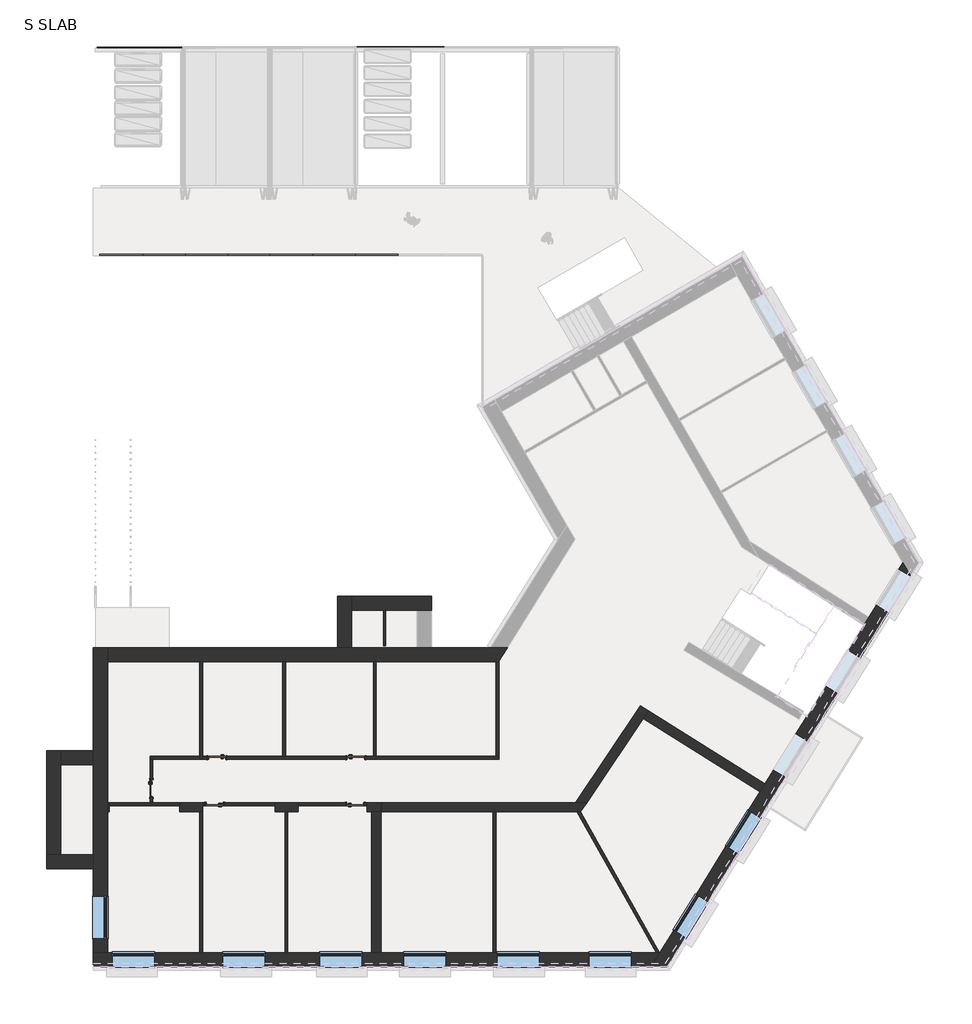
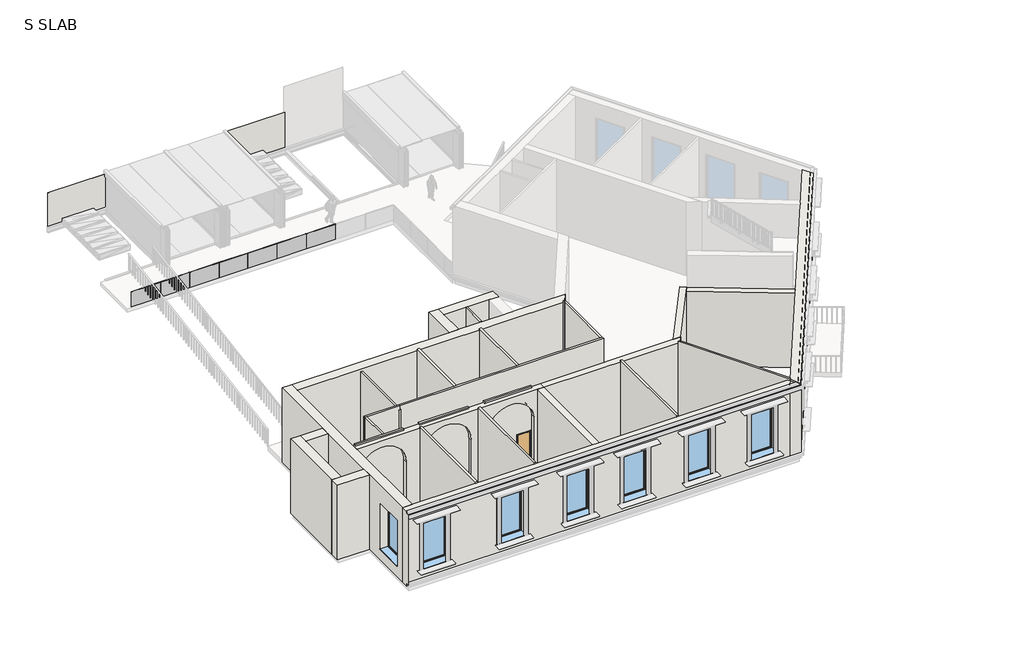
# One storey, part 1 of 4: 31 walls, 9 windows, 7 plates, 5 doors.
"""IFC4 building model written with IfcOpenShell, lengths in millimetres."""

from ifc_helpers import new_model, si_unit, frame, origin, place, context, project, spatial, polyline, circle_curve, outline, extrude, faceted_brep, transform, mapped, element, save
from ifc_brep_helpers import plane_surface, revolved_surface, advanced_brep
from components import doors_intsgl_810x2110mm_5ef26f82, doors_intsgl_810x2110mm_60c2a13c, system_panel_glazed_a0877fd3, system_panel_glazed_3ddc4d3d, system_panel_glazed_6f7ca1da, windows_sgl_plain_1810x1210mm_9f3af405, windows_sgl_plain_1810x1210mm_a5bf54d6

model = new_model("IFC4")

# Units and contexts
model_context = context("Model", 3, world=origin())
ifc_project = project(units=[si_unit("LENGTHUNIT", "METRE", prefix="MILLI")], contexts=[model_context])

# Site, building, storey
site = spatial("IfcSite", under=ifc_project)
building = spatial("IfcBuilding", under=site)
storey = spatial("IfcBuildingStorey", under=building, Name="S SLAB", Elevation=6300.0)

# Doors
placement = place(None, origin())
doors_intsgl_810x2110mm_shape = doors_intsgl_810x2110mm_5ef26f82(model_context)
element("IfcDoor", 1, ObjectType="Doors_IntSgl : 810x2110mm", at=placement, inside=storey, context=model_context, shape_type="MappedRepresentation", body=[
    mapped(doors_intsgl_810x2110mm_shape, transform((-10959.1874983, 3595.0288254, 6300.0), x_axis=(0.0, -1.0, 0.0), y_axis=(1.0, 0.0, 0.0), z_axis=(0.0, 0.0, 1.0))),
])
element("IfcDoor", 2, ObjectType="Doors_IntSgl : 810x2110mm", at=placement, inside=storey, context=model_context, shape_type="MappedRepresentation", body=[
    mapped(doors_intsgl_810x2110mm_shape, transform((-2274.1874983, 2927.5288254, 6300.0), x_axis=(1.0, 0.0, 0.0), y_axis=(0.0, 1.0, 0.0), z_axis=(0.0, 0.0, 1.0))),
])
element("IfcDoor", 3, ObjectType="Doors_IntSgl : 810x2110mm", at=placement, inside=storey, context=model_context, shape_type="MappedRepresentation", body=[
    mapped(doors_intsgl_810x2110mm_shape, transform((-8166.6874983, 4905.5548037, 6300.0), x_axis=(-1.0, 0.0, 0.0), y_axis=(0.0, -1.0, 0.0), z_axis=(0.0, 0.0, 1.0))),
])
doors_intsgl_810x2110mm_2_shape = doors_intsgl_810x2110mm_60c2a13c(model_context)
element("IfcDoor", 4, ObjectType="Doors_IntSgl : 810x2110mm", at=placement, inside=storey, context=model_context, shape_type="MappedRepresentation", body=[
    mapped(doors_intsgl_810x2110mm_2_shape, transform((-2249.780878, 4905.5548037, 6300.0), x_axis=(1.0, 0.0, 0.0), y_axis=(0.0, 1.0, 0.0), z_axis=(0.0, 0.0, 1.0))),
])
element("IfcDoor", 5, ObjectType="Doors_IntSgl : 810x2110mm", at=placement, inside=storey, context=model_context, shape_type="MappedRepresentation", body=[
    mapped(doors_intsgl_810x2110mm_2_shape, transform((-8266.6874983, 2927.5288254, 6300.0), x_axis=(-1.0, 0.0, 0.0), y_axis=(0.0, -1.0, 0.0), z_axis=(0.0, 0.0, 1.0))),
])

# Plates
system_panel_glazed_shape = system_panel_glazed_a0877fd3(model_context)
element("IfcPlate", 6, ObjectType="System Panel : Glazed", at=placement, inside=storey, context=model_context, shape_type="MappedRepresentation", body=[
    mapped(system_panel_glazed_shape, transform((-12256.6874982, 26292.1681881, 6300.0), x_axis=(1.0, 0.0, 0.0), y_axis=(0.0, 1.0, 0.0), z_axis=(0.0, 0.0, 1.0))),
])
element("IfcPlate", 7, ObjectType="System Panel : Glazed", at=placement, inside=storey, context=model_context, shape_type="MappedRepresentation", body=[
    mapped(system_panel_glazed_shape, transform((-8616.6874982, 26292.1681881, 6300.0), x_axis=(1.0, 0.0, 0.0), y_axis=(0.0, 1.0, 0.0), z_axis=(0.0, 0.0, 1.0))),
])
element("IfcPlate", 8, ObjectType="System Panel : Glazed", at=placement, inside=storey, context=model_context, shape_type="MappedRepresentation", body=[
    mapped(system_panel_glazed_shape, transform((-5016.6874982, 26292.1681881, 6300.0), x_axis=(1.0, 0.0, 0.0), y_axis=(0.0, 1.0, 0.0), z_axis=(0.0, 0.0, 1.0))),
])
element("IfcPlate", 9, ObjectType="System Panel : Glazed", at=placement, inside=storey, context=model_context, shape_type="MappedRepresentation", body=[
    mapped(system_panel_glazed_shape, transform((-3186.6874982, 26292.1681881, 6300.0), x_axis=(1.0, 0.0, 0.0), y_axis=(0.0, 1.0, 0.0), z_axis=(0.0, 0.0, 1.0))),
])
element("IfcPlate", 10, ObjectType="System Panel : Glazed", at=placement, inside=storey, context=model_context, shape_type="MappedRepresentation", body=[
    mapped(system_panel_glazed_shape, transform((-1356.6874982, 26292.1681881, 6300.0), x_axis=(1.0, 0.0, 0.0), y_axis=(0.0, 1.0, 0.0), z_axis=(0.0, 0.0, 1.0))),
])
system_panel_glazed_2_shape = system_panel_glazed_3ddc4d3d(model_context)
element("IfcPlate", 11, ObjectType="System Panel : Glazed", at=placement, inside=storey, context=model_context, shape_type="MappedRepresentation", body=[
    mapped(system_panel_glazed_2_shape, transform((-6816.6874982, 26292.1681881, 6300.0), x_axis=(1.0, 0.0, 0.0), y_axis=(0.0, 1.0, 0.0), z_axis=(0.0, 0.0, 1.0))),
])
system_panel_glazed_3_shape = system_panel_glazed_6f7ca1da(model_context)
element("IfcPlate", 12, ObjectType="System Panel : Glazed", at=placement, inside=storey, context=model_context, shape_type="MappedRepresentation", body=[
    mapped(system_panel_glazed_3_shape, transform((-10436.6874982, 26292.1681881, 6300.0), x_axis=(1.0, 0.0, 0.0), y_axis=(0.0, 1.0, 0.0), z_axis=(0.0, 0.0, 1.0))),
])

# Walls
element("IfcWall", 13, ObjectType="Wall-Partn_12P-70MStd-12P", at=placement, inside=storey, context=model_context, shape_type="SweptSolid", body=[
    extrude(outline(polyline([(-972.280878, 11190.0288254), (-972.280878, 9665.0288254), (-1067.280878, 9665.0288254), (-1067.280878, 11190.0288254), (-972.280878, 11190.0288254)])), frame((0.0, 0.0, 6300.0), z_axis=(0.0, 0.0, 1.0), x_axis=(1.0, 0.0, 0.0)), (0.0, 0.0, 1.0), 4900.0),
])
element("IfcWall", 14, ObjectType="Wall-Partn_12P-70MStd-12P 2", at=placement, inside=storey, context=model_context, shape_type="SweptSolid", body=[
    extrude(outline(polyline([(-2196.5962965, 35197.5288254), (1503.4037035, 35197.5288254), (1503.4037035, 35182.5288254), (-2196.5962965, 35182.5288254), (-2196.5962965, 35197.5288254)])), frame((0.0, 0.0, 6300.0), z_axis=(0.0, 0.0, 1.0), x_axis=(1.0, 0.0, 0.0)), (0.0, 0.0, 1.0), 2301.9721591),
])
element("IfcWall", 15, ObjectType="Wall-Partn_12P-70MStd-12P 2", at=placement, inside=storey, context=model_context, shape_type="SweptSolid", body=[
    extrude(outline(polyline([(-13277.0617256, 35159.4288254), (-9669.7874983, 35159.4288254), (-9669.7874983, 35144.4288254), (-13277.0617256, 35144.4288254), (-13277.0617256, 35159.4288254)])), frame((0.0, 0.0, 6300.0), z_axis=(0.0, 0.0, 1.0), x_axis=(1.0, 0.0, 0.0)), (0.0, 0.0, 1.0), 2195.0359134),
])
element("IfcWall", 16, ObjectType="Wall-Int_12P-100Blk-12P", at=placement, inside=storey, context=model_context, shape_type="Brep", body=[
    faceted_brep([(-8771.6874983, 4843.0548037, 6300.0), (-8771.6874983, 4968.0548037, 6300.0), (-8771.6874983, 8990.0288254, 6300.0), (-8771.6874983, 8990.0288254, 11032.2806787), (-8771.6874983, 4968.0548037, 11032.2806787), (-8771.6874983, 4843.0548037, 11032.2806787), (-8896.6874983, 4843.0548037, 6300.0), (-8896.6874983, 4843.0548037, 11032.2806787), (-8896.6874983, 4968.0548037, 11032.2806787), (-8896.6874983, 8990.0288254, 11032.2806787), (-8896.6874983, 8990.0288254, 6300.0), (-8896.6874983, 4968.0548037, 6300.0), (-8834.1874983, 4843.0548037, 11032.2806787)], [[[0, 1, 2, 3, 4, 5]], [[6, 7, 8, 9, 10, 11]], [[2, 1, 0, 6, 11, 10]], [[5, 4, 3, 9, 8, 7, 12]], [[3, 2, 10, 9]], [[0, 5, 12, 7, 6]]]),
])
element("IfcWall", 17, ObjectType="Wall-Int_12P-100Blk-12P", at=placement, inside=storey, context=model_context, shape_type="SweptSolid", body=[
    extrude(outline(polyline([(-5246.6874983, 8990.0288254), (-5246.6874983, 4968.0548037), (-5371.6874983, 4968.0548037), (-5371.6874983, 8990.0288254), (-5246.6874983, 8990.0288254)])), frame((0.0, 0.0, 6300.0), z_axis=(0.0, 0.0, 1.0), x_axis=(1.0, 0.0, 0.0)), (0.0, 0.0, 1.0), 5000.0),
])
element("IfcWall", 18, ObjectType="Wall-Int_12P-100Blk-12P", at=placement, inside=storey, context=model_context, shape_type="SweptSolid", body=[
    extrude(outline(polyline([(-1501.9484639, 4968.0548037), (-1501.9484639, 8990.0288254), (-1376.9484639, 8990.0288254), (-1376.9484639, 4968.0548037), (-1501.9484639, 4968.0548037)])), frame((0.0, 0.0, 6300.0), z_axis=(0.0, 0.0, 1.0), x_axis=(1.0, 0.0, 0.0)), (0.0, 0.0, 1.0), 5000.0),
])
element("IfcWall", 19, ObjectType="Wall-Int_12P-100Blk-12P", at=placement, inside=storey, context=model_context, shape_type="Brep", body=[
    faceted_brep([(-9751.6874983, 2990.0288254, 6300.0), (-10896.6874983, 2990.0288254, 6300.0), (-11021.6874983, 2990.0288254, 6300.0), (-12755.2222662, 2990.0288254, 6300.0), (-12755.2222662, 2990.0288254, 11300.0), (-11021.6874983, 2990.0288254, 11300.0), (-10896.6874983, 2990.0288254, 11300.0), (-9751.6874983, 2990.0288254, 11300.0), (-9751.6874983, 2865.0288254, 6300.0), (-9751.6874983, 2865.0288254, 11300.0), (-12755.2222662, 2865.0288254, 11300.0), (-12755.2222662, 2865.0288254, 6300.0)], [[[0, 1, 2, 3, 4, 5, 6, 7]], [[8, 9, 10, 11]], [[3, 2, 1, 0, 8, 11]], [[7, 6, 5, 4, 10, 9]], [[0, 7, 9, 8]], [[3, 11, 10, 4]]]),
])
element("IfcWall", 20, ObjectType="Wall-Int_12P-100Blk-12P", at=placement, inside=storey, context=model_context, shape_type="SweptSolid", body=[
    extrude(outline(polyline([(6300.0, -5691.6874983), (11300.0, -5691.6874983), (11300.0, -8771.6874983), (6300.0, -8771.6874983), (6300.0, -8671.6874983), (8410.0, -8671.6874983), (8410.0, -7861.6874983), (6300.0, -7861.6874983), (6300.0, -5691.6874983)])), frame((0.0, 2865.0288254, 0.0), z_axis=(0.0, 1.0, 0.0), x_axis=(0.0, 0.0, 1.0)), (0.0, 0.0, 1.0), 125.0),
])
element("IfcWall", 21, ObjectType="Wall-Int_12P-100Blk-12P", at=placement, inside=storey, context=model_context, shape_type="SweptSolid", body=[
    extrude(outline(polyline([(11300.0, -1769.1874983), (11300.0, -4711.6874983), (6300.0, -4711.6874983), (6300.0, -2679.1874983), (8410.0, -2679.1874983), (8410.0, -1869.1874983), (6300.0, -1869.1874983), (6300.0, -1769.1874983), (11300.0, -1769.1874983)])), frame((0.0, 2865.0288254, 0.0), z_axis=(0.0, 1.0, 0.0), x_axis=(0.0, 0.0, 1.0)), (0.0, 0.0, 1.0), 125.0),
])
element("IfcWall", 22, ObjectType="Wall-Int_12P-100Blk-12P", at=placement, inside=storey, context=model_context, shape_type="SweptSolid", body=[
    extrude(outline(polyline([(-8896.6874983, -3409.9711746), (-8896.6874983, 2590.0288254), (-8771.6874983, 2590.0288254), (-8771.6874983, -3409.9711746), (-8896.6874983, -3409.9711746)])), frame((0.0, 0.0, 6300.0), z_axis=(0.0, 0.0, 1.0), x_axis=(1.0, 0.0, 0.0)), (0.0, 0.0, 1.0), 5000.0),
])
element("IfcWall", 23, ObjectType="Wall-Int_12P-100Blk-12P", at=placement, inside=storey, context=model_context, shape_type="SweptSolid", body=[
    extrude(outline(polyline([(-5271.6874983, -3409.9711746), (-5271.6874983, 2590.0288254), (-5146.6874983, 2590.0288254), (-5146.6874983, -3409.9711746), (-5271.6874983, -3409.9711746)])), frame((0.0, 0.0, 6300.0), z_axis=(0.0, 0.0, 1.0), x_axis=(1.0, 0.0, 0.0)), (0.0, 0.0, 1.0), 5000.0),
])
element("IfcWall", 24, ObjectType="Wall-Int_12P-100Blk-12P", at=placement, inside=storey, context=model_context, shape_type="SweptSolid", body=[
    extrude(outline(polyline([(3720.5515361, 2590.0288254), (3720.5515361, -3409.9711746), (3595.5515361, -3409.9711746), (3595.5515361, 2590.0288254), (3720.5515361, 2590.0288254)])), frame((0.0, 0.0, 6300.0), z_axis=(0.0, 0.0, 1.0), x_axis=(1.0, 0.0, 0.0)), (0.0, 0.0, 1.0), 5000.0),
])
element("IfcWall", 25, ObjectType="Wall-Int_12P-100Blk-12P", at=placement, inside=storey, context=model_context, shape_type="Brep", body=[
    faceted_brep([(3845.5515361, 4843.0548037, 11300.0), (-8834.1874983, 4843.0548037, 11300.0), (-8834.1874983, 4843.0548037, 11032.2806787), (-8771.6874983, 4843.0548037, 11032.2806787), (-8771.6874983, 4843.0548037, 6300.0), (-8571.6874983, 4843.0548037, 6300.0), (-8571.6874983, 4843.0548037, 8410.0), (-7761.6874983, 4843.0548037, 8410.0), (-7761.6874983, 4843.0548037, 6300.0), (-2654.780878, 4843.0548037, 6300.0), (-2654.780878, 4843.0548037, 8410.0), (-1844.780878, 4843.0548037, 8410.0), (-1844.780878, 4843.0548037, 6300.0), (3845.5515361, 4843.0548037, 6300.0), (-8834.1874983, 4968.0548037, 11300.0), (-5371.6874983, 4968.0548037, 11300.0), (-5246.6874983, 4968.0548037, 11300.0), (-1501.9484639, 4968.0548037, 11300.0), (-1376.9484639, 4968.0548037, 11300.0), (3720.5515361, 4968.0548037, 11300.0), (3845.5515361, 4968.0548037, 11300.0), (3845.5515361, 4968.0548037, 6300.0), (3720.5515361, 4968.0548037, 6300.0), (-1376.9484639, 4968.0548037, 6300.0), (-1501.9484639, 4968.0548037, 6300.0), (-1844.780878, 4968.0548037, 6300.0), (-1844.780878, 4968.0548037, 8410.0), (-2654.780878, 4968.0548037, 8410.0), (-2654.780878, 4968.0548037, 6300.0), (-5246.6874983, 4968.0548037, 6300.0), (-5371.6874983, 4968.0548037, 6300.0), (-7761.6874983, 4968.0548037, 6300.0), (-7761.6874983, 4968.0548037, 8410.0), (-8571.6874983, 4968.0548037, 8410.0), (-8571.6874983, 4968.0548037, 6300.0), (-8771.6874983, 4968.0548037, 6300.0), (-8771.6874983, 4968.0548037, 11032.2806787), (-8834.1874983, 4968.0548037, 11032.2806787)], [[[0, 1, 2, 3, 4, 5, 6, 7, 8, 9, 10, 11, 12, 13]], [[14, 15, 16, 17, 18, 19, 20, 21, 22, 23, 24, 25, 26, 27, 28, 29, 30, 31, 32, 33, 34, 35, 36, 37]], [[4, 35, 34, 5]], [[21, 13, 12, 25, 24, 23, 22]], [[8, 31, 30, 29, 28, 9]], [[1, 0, 20, 19, 18, 17, 16, 15, 14]], [[0, 13, 21, 20]], [[33, 6, 5, 34]], [[6, 33, 32, 7]], [[7, 32, 31, 8]], [[11, 26, 25, 12]], [[26, 11, 10, 27]], [[27, 10, 9, 28]], [[1, 14, 37, 2]], [[2, 37, 36, 3]], [[35, 4, 3, 36]]]),
])
element("IfcWall", 26, ObjectType="Wall-Int_12P-100Blk-12P", at=placement, inside=storey, context=model_context, shape_type="SweptSolid", body=[
    extrude(outline(polyline([(3845.5515361, 8990.0288254), (3845.5515361, 4968.0548037), (3720.5515361, 4968.0548037), (3720.5515361, 8990.0288254), (3845.5515361, 8990.0288254)])), frame((0.0, 0.0, 6300.0), z_axis=(0.0, 0.0, 1.0), x_axis=(1.0, 0.0, 0.0)), (0.0, 0.0, 1.0), 5000.0),
])
element("IfcWall", 27, ObjectType="Wall-Int_12P-100Blk-12P", at=placement, inside=storey, context=model_context, shape_type="Brep", body=[
    faceted_brep([(-8896.6874983, 4968.0548037, 6300.0), (-11021.6874983, 4968.0548037, 6300.0), (-11021.6874983, 4968.0548037, 11300.0), (-8834.1874983, 4968.0548037, 11300.0), (-8834.1874983, 4968.0548037, 11032.2806787), (-8896.6874983, 4968.0548037, 11032.2806787), (-8896.6874983, 4843.0548037, 6300.0), (-8896.6874983, 4843.0548037, 11032.2806787), (-8834.1874983, 4843.0548037, 11032.2806787), (-8834.1874983, 4843.0548037, 11300.0), (-10896.6874983, 4843.0548037, 11300.0), (-11021.6874983, 4843.0548037, 11300.0), (-11021.6874983, 4843.0548037, 6300.0), (-10896.6874983, 4843.0548037, 6300.0)], [[[0, 1, 2, 3, 4, 5]], [[6, 7, 8, 9, 10, 11, 12, 13]], [[1, 0, 6, 13, 12]], [[3, 2, 11, 10, 9]], [[2, 1, 12, 11]], [[4, 3, 9, 8]], [[4, 8, 7, 5]], [[0, 5, 7, 6]]]),
])
element("IfcWall", 28, ObjectType="Wall-Int_12P-100Blk-12P", at=placement, inside=storey, context=model_context, shape_type="SweptSolid", body=[
    extrude(outline(polyline([(2990.0288254, 11300.0), (4843.0548037, 11300.0), (4843.0548037, 6300.0), (4000.0288254, 6300.0), (4000.0288254, 8410.0), (3190.0288254, 8410.0), (3190.0288254, 6300.0), (2990.0288254, 6300.0), (2990.0288254, 11300.0)])), frame((-11021.6874983, 0.0, 0.0), z_axis=(1.0, 0.0, 0.0), x_axis=(0.0, 1.0, 0.0)), (0.0, 0.0, 1.0), 125.0),
])
element("IfcWall", 29, ObjectType="Wall-Int_12P-100Blk-12P", at=placement, inside=storey, context=model_context, shape_type="Brep", body=[
    faceted_brep([(7186.1227324, 2590.0288254, 6300.0), (10558.3621019, -3409.9711746, 6300.0), (10558.3621019, -3409.9711746, 11200.0), (10626.3705465, -3530.9740522, 11200.0), (10626.3705465, -3530.9740522, 11300.0), (7186.1227324, 2590.0288254, 11300.0), (7329.5129802, 2590.0288254, 6300.0), (7329.5129802, 2590.0288254, 11300.0), (10701.7523498, -3409.9711746, 11300.0), (10701.7523498, -3409.9711746, 11200.0), (10701.7523498, -3409.9711746, 6300.0)], [[[0, 1, 2, 3, 4, 5]], [[6, 7, 8, 9, 10]], [[1, 0, 6, 10]], [[5, 4, 8, 7]], [[0, 5, 7, 6]], [[9, 3, 2]], [[2, 1, 10, 9]], [[4, 3, 9, 8]]]),
])
element("IfcWall", 30, ObjectType="ug wall", at=placement, inside=storey, context=model_context, shape_type="Brep", body=[
    faceted_brep([(10626.3705465, -3530.9740522, 11300.0), (21057.5565557, 13213.1666959, 11300.0), (21057.5565557, 13213.1666959, 6300.0), (19611.2262009, 10891.5170764, 6300.0), (19399.7065972, 10551.985789, 6300.0), (15188.1012334, 3791.5164689, 6300.0), (14976.5959987, 3452.0082466, 6300.0), (10701.7523498, -3409.9711746, 6300.0), (10422.9086081, -3857.5711746, 6300.0), (10422.9086081, -3857.5711746, 6452.4), (10327.9671732, -4009.9711746, 6452.4), (10327.9671732, -4009.9711746, 6500.0), (10327.9671732, -4009.9711746, 6652.4), (10327.9671732, -4009.9711746, 10900.0), (10327.9671732, -4009.9711746, 11052.4), (10327.9671732, -4009.9711746, 11100.0), (10422.9086081, -3857.5711746, 11100.0), (10422.9086081, -3857.5711746, 11200.0), (10626.3705465, -3530.9740522, 11200.0), (19929.6126457, 11402.5910271, 10200.0), (19929.6126457, 11402.5910271, 7200.0), (20886.6729434, 12938.8643056, 7200.0), (20886.6729434, 12938.8643056, 10200.0), (13526.2976149, 1123.9891466, 10200.0), (13526.2976149, 1123.9891466, 7200.0), (14483.3579126, 2660.2624252, 7200.0), (14483.3579126, 2660.2624252, 10200.0), (11300.2070881, -2449.3315732, 10200.0), (11300.2070881, -2449.3315732, 7200.0), (12257.2673858, -913.0582946, 7200.0), (12257.2673858, -913.0582946, 10200.0), (16510.3397323, 5913.9738298, 7050.0), (16510.3397323, 5913.9738298, 10050.0), (15553.2794345, 4377.7005513, 10050.0), (15553.2794345, 4377.7005513, 7050.0), (18736.4302591, 9487.2945496, 7050.0), (18736.4302591, 9487.2945496, 10050.0), (17779.3699613, 7951.0212711, 10050.0), (17779.3699613, 7951.0212711, 7050.0), (21397.5743657, 12624.2385734, 11300.0), (10961.6481746, -4127.511115, 11300.0), (10961.6481746, -4127.511115, 11200.0), (11034.8726536, -4009.9711746, 11200.0), (11034.8726536, -4009.9711746, 11252.4), (21397.5743657, 12624.2385734, 11252.4), (21397.5743657, 12624.2385734, 6500.0), (21397.5743657, 12624.2385734, 6652.4), (21397.5743657, 12624.2385734, 10900.0), (21397.5743657, 12624.2385734, 11052.4), (21397.5743657, 12624.2385734, 11100.0), (11034.8726536, -4009.9711746, 11100.0), (11034.8726536, -4009.9711746, 11052.4), (11034.8726536, -4009.9711746, 10900.0), (11034.8726536, -4009.9711746, 6652.4), (11034.8726536, -4009.9711746, 6500.0), (11034.8726536, -4009.9711746, 6452.4), (21397.5743657, 12624.2385734, 6452.4), (20438.874506, 11085.3334698, 7200.0), (20438.874506, 11085.3334698, 10200.0), (21395.9348037, 12621.6067484, 10200.0), (21395.9348037, 12621.6067484, 7200.0), (14035.5594752, 806.7315893, 7200.0), (14035.5594752, 806.7315893, 10200.0), (14992.6197729, 2343.0048679, 10200.0), (14992.6197729, 2343.0048679, 7200.0), (11809.4689484, -2766.5891305, 7200.0), (11809.4689484, -2766.5891305, 10200.0), (12766.5292461, -1230.3158519, 10200.0), (12766.5292461, -1230.3158519, 7200.0), (17019.6015926, 5596.7162726, 10050.0), (17019.6015926, 5596.7162726, 7050.0), (16062.5412949, 4060.442994, 7050.0), (16062.5412949, 4060.442994, 10050.0), (19245.6921194, 9170.0369924, 10050.0), (19245.6921194, 9170.0369924, 7050.0), (18288.6318217, 7633.7637138, 7050.0), (18288.6318217, 7633.7637138, 10050.0), (21311.2098419, 12773.8263165, 6300.0), (10950.2600964, -3857.5711746, 6300.0), (21311.2098419, 12773.8263165, 11252.4), (21311.2098419, 12773.8263165, 11200.0), (21311.2098419, 12773.8263165, 11100.0), (21311.2098419, 12773.8263165, 6452.4), (10950.2600964, -3857.5711746, 6452.4), (10950.2600964, -3857.5711746, 11100.0), (10950.2600964, -3857.5711746, 11252.4), (10809.9311589, -3857.5711746, 11252.4), (10809.9311589, -3857.5711746, 11200.0), (10895.5860389, -4009.9711746, 11252.4), (10895.5860389, -4009.9711746, 11200.0)], [[[0, 1, 2, 3, 4, 5, 6, 7, 8, 9, 10, 11, 12, 13, 14, 15, 16, 17, 18], [19, 20, 21, 22], [23, 24, 25, 26], [27, 28, 29, 30], [31, 32, 33, 34], [35, 36, 37, 38]], [[39, 40, 41, 42, 43, 44]], [[45, 46, 47, 48, 49, 50, 51, 52, 53, 54, 55, 56], [57, 58, 59, 60], [61, 62, 63, 64], [65, 66, 67, 68], [69, 70, 71, 72], [73, 74, 75, 76]], [[8, 7, 6, 5, 4, 3, 2, 77, 78]], [[1, 0, 40, 39]], [[2, 1, 39, 44, 79, 80, 81, 49, 48, 47, 46, 45, 56, 82, 77]], [[9, 83, 82, 56, 55, 10]], [[83, 78, 77, 82]], [[78, 83, 9, 8]], [[81, 84, 16, 15, 50, 49]], [[85, 84, 81, 80, 79]], [[84, 85, 86, 87, 17, 16]], [[88, 43, 42, 89]], [[20, 19, 58, 57]], [[21, 20, 57, 60]], [[22, 21, 60, 59]], [[19, 22, 59, 58]], [[24, 23, 62, 61]], [[25, 24, 61, 64]], [[26, 25, 64, 63]], [[23, 26, 63, 62]], [[28, 27, 66, 65]], [[29, 28, 65, 68]], [[30, 29, 68, 67]], [[27, 30, 67, 66]], [[12, 11, 10, 55, 54, 53, 52, 51, 50, 15, 14, 13]], [[40, 0, 18, 87, 86, 88, 89, 41]], [[43, 88, 86, 85, 79, 44]], [[69, 32, 31, 70]], [[33, 72, 71, 34]], [[32, 69, 72, 33]], [[73, 36, 35, 74]], [[37, 76, 75, 38]], [[36, 73, 76, 37]], [[34, 71, 70, 31]], [[38, 75, 74, 35]], [[42, 41, 89]], [[18, 17, 87]]]),
])
element("IfcWall", 31, ObjectType="ug wall", at=placement, inside=storey, context=model_context, shape_type="Brep", body=[
    faceted_brep([(10327.9671732, -4009.9711746, 6500.0), (10327.9671732, -4009.9711746, 6652.4), (10327.9671732, -4009.9711746, 10900.0), (10327.9671732, -4009.9711746, 11052.4), (10327.9671732, -4009.9711746, 11100.0), (-13431.6874983, -4009.9711746, 11100.0), (-13431.6874983, -4009.9711746, 11052.4), (-13431.6874983, -4009.9711746, 10900.0), (-13431.6874983, -4009.9711746, 6652.4), (-13431.6874983, -4009.9711746, 6500.0), (-13431.6874983, -4009.9711746, 6452.4), (10327.9671732, -4009.9711746, 6452.4), (-10821.6874983, -4009.9711746, 10200.0), (-10821.6874983, -4009.9711746, 7200.0), (-12631.6874983, -4009.9711746, 7200.0), (-12631.6874983, -4009.9711746, 10200.0), (7680.5515361, -4009.9711746, 7200.0), (7680.5515361, -4009.9711746, 10200.0), (9490.5515361, -4009.9711746, 10200.0), (9490.5515361, -4009.9711746, 7200.0), (3770.5515361, -4009.9711746, 7200.0), (3770.5515361, -4009.9711746, 10200.0), (5580.5515361, -4009.9711746, 10200.0), (5580.5515361, -4009.9711746, 7200.0), (-205.6984639, -4009.9711746, 7200.0), (-205.6984639, -4009.9711746, 10200.0), (1604.3015361, -4009.9711746, 10200.0), (1604.3015361, -4009.9711746, 7200.0), (-3786.9484639, -4009.9711746, 7200.0), (-3786.9484639, -4009.9711746, 10200.0), (-1976.9484639, -4009.9711746, 10200.0), (-1976.9484639, -4009.9711746, 7200.0), (-7921.6874983, -4009.9711746, 7200.0), (-7921.6874983, -4009.9711746, 10200.0), (-6111.6874983, -4009.9711746, 10200.0), (-6111.6874983, -4009.9711746, 7200.0), (10701.7523498, -3409.9711746, 6300.0), (-1176.9484639, -3409.9711746, 6300.0), (-1576.9484639, -3409.9711746, 6300.0), (-12831.6874983, -3409.9711746, 6300.0), (-13431.6874983, -3409.9711746, 6300.0), (-13431.6874983, -3409.9711746, 11200.0), (-12831.6874983, -3409.9711746, 11200.0), (-1576.9484639, -3409.9711746, 11200.0), (-1176.9484639, -3409.9711746, 11200.0), (10701.7523498, -3409.9711746, 11200.0), (-10821.6874983, -3409.9711746, 7200.0), (-10821.6874983, -3409.9711746, 10200.0), (-12631.6874983, -3409.9711746, 10200.0), (-12631.6874983, -3409.9711746, 7200.0), (7680.5515361, -3409.9711746, 10200.0), (7680.5515361, -3409.9711746, 7200.0), (9490.5515361, -3409.9711746, 7200.0), (9490.5515361, -3409.9711746, 10200.0), (3770.5515361, -3409.9711746, 10200.0), (3770.5515361, -3409.9711746, 7200.0), (5580.5515361, -3409.9711746, 7200.0), (5580.5515361, -3409.9711746, 10200.0), (-205.6984639, -3409.9711746, 10200.0), (-205.6984639, -3409.9711746, 7200.0), (1604.3015361, -3409.9711746, 7200.0), (1604.3015361, -3409.9711746, 10200.0), (-3786.9484639, -3409.9711746, 10200.0), (-3786.9484639, -3409.9711746, 7200.0), (-1976.9484639, -3409.9711746, 7200.0), (-1976.9484639, -3409.9711746, 10200.0), (-7921.6874983, -3409.9711746, 10200.0), (-7921.6874983, -3409.9711746, 7200.0), (-6111.6874983, -3409.9711746, 7200.0), (-6111.6874983, -3409.9711746, 10200.0), (10422.9086081, -3857.5711746, 6300.0), (-13431.6874983, -3857.5711746, 6300.0), (10626.3705465, -3530.9740522, 11200.0), (10422.9086081, -3857.5711746, 11200.0), (10422.9086081, -3857.5711746, 11100.0), (10422.9086081, -3857.5711746, 6452.4), (-13431.6874983, -3857.5711746, 6452.4), (-13431.6874983, -3857.5711746, 11100.0), (-13431.6874983, -3857.5711746, 11200.0)], [[[0, 1, 2, 3, 4, 5, 6, 7, 8, 9, 10, 11], [12, 13, 14, 15], [16, 17, 18, 19], [20, 21, 22, 23], [24, 25, 26, 27], [28, 29, 30, 31], [32, 33, 34, 35]], [[36, 37, 38, 39, 40, 41, 42, 43, 44, 45], [46, 47, 48, 49], [50, 51, 52, 53], [54, 55, 56, 57], [58, 59, 60, 61], [62, 63, 64, 65], [66, 67, 68, 69]], [[40, 39, 38, 37, 36, 70, 71]], [[36, 45, 72, 73, 74, 4, 3, 2, 1, 0, 11, 75, 70]], [[41, 40, 71, 76, 10, 9, 8, 7, 6, 5, 77, 78]], [[45, 44, 43, 42, 41, 78, 73, 72]], [[76, 75, 11, 10]], [[75, 76, 71, 70]], [[77, 74, 73, 78]], [[74, 77, 5, 4]], [[13, 12, 47, 46]], [[14, 13, 46, 49]], [[15, 14, 49, 48]], [[12, 15, 48, 47]], [[51, 50, 17, 16]], [[52, 51, 16, 19]], [[53, 52, 19, 18]], [[50, 53, 18, 17]], [[55, 54, 21, 20]], [[56, 55, 20, 23]], [[57, 56, 23, 22]], [[54, 57, 22, 21]], [[59, 58, 25, 24]], [[60, 59, 24, 27]], [[61, 60, 27, 26]], [[58, 61, 26, 25]], [[63, 62, 29, 28]], [[64, 63, 28, 31]], [[65, 64, 31, 30]], [[62, 65, 30, 29]], [[67, 66, 33, 32]], [[68, 67, 32, 35]], [[69, 68, 35, 34]], [[66, 69, 34, 33]]]),
])
element("IfcWall", 32, ObjectType="ug wall", at=placement, inside=storey, context=model_context, shape_type="Brep", body=[
    faceted_brep([(-12831.6874983, -3409.9711746, 6300.0), (-12831.6874983, 2590.0288254, 6300.0), (-12831.6874983, 2990.0288254, 6300.0), (-12831.6874983, 8990.0288254, 6300.0), (-12831.6874983, 9590.0288254, 6300.0), (-12831.6874983, 9590.0288254, 11200.0), (-12831.6874983, 8990.0288254, 11200.0), (-12831.6874983, 2990.0288254, 11200.0), (-12831.6874983, 2590.0288254, 11200.0), (-12831.6874983, -3409.9711746, 11200.0), (-12831.6874983, -999.9711746, 10000.0), (-12831.6874983, -999.9711746, 7000.0), (-12831.6874983, -2809.9711746, 7000.0), (-12831.6874983, -2809.9711746, 10000.0), (-13431.6874983, -3409.9711746, 6300.0), (-13431.6874983, -3409.9711746, 11200.0), (-13431.6874983, 165.5548037, 11200.0), (-13431.6874983, 765.5548037, 11200.0), (-13431.6874983, 4605.5548037, 11200.0), (-13431.6874983, 5205.5548037, 11200.0), (-13431.6874983, 9590.0288254, 11200.0), (-13431.6874983, 9590.0288254, 6300.0), (-13431.6874983, 5205.5548037, 6300.0), (-13431.6874983, 4605.5548037, 6300.0), (-13431.6874983, 765.5548037, 6300.0), (-13431.6874983, 165.5548037, 6300.0), (-13431.6874983, -999.9711746, 10000.0), (-13431.6874983, -2809.9711746, 10000.0), (-13431.6874983, -2809.9711746, 7000.0), (-13431.6874983, -999.9711746, 7000.0)], [[[0, 1, 2, 3, 4, 5, 6, 7, 8, 9], [10, 11, 12, 13]], [[14, 15, 16, 17, 18, 19, 20, 21, 22, 23, 24, 25], [26, 27, 28, 29]], [[4, 3, 2, 1, 0, 14, 25, 24, 23, 22, 21]], [[0, 9, 15, 14]], [[9, 8, 7, 6, 5, 20, 19, 18, 17, 16, 15]], [[5, 4, 21, 20]], [[11, 10, 26, 29]], [[12, 11, 29, 28]], [[13, 12, 28, 27]], [[10, 13, 27, 26]]]),
])
element("IfcWall", 33, ObjectType="ug wall", at=placement, inside=storey, context=model_context, shape_type="Brep", body=[
    faceted_brep([(-15431.6874983, 165.5548037, 6300.0), (-13431.6874983, 165.5548037, 6300.0), (-13431.6874983, 165.5548037, 11200.0), (-15431.6874983, 165.5548037, 11200.0), (-15431.6874983, 765.5548037, 6300.0), (-15431.6874983, 765.5548037, 11200.0), (-14831.6874983, 765.5548037, 11200.0), (-13431.6874983, 765.5548037, 11200.0), (-13431.6874983, 765.5548037, 6300.0), (-14831.6874983, 765.5548037, 6300.0)], [[[0, 1, 2, 3]], [[4, 5, 6, 7, 8, 9]], [[1, 0, 4, 9, 8]], [[2, 1, 8, 7]], [[0, 3, 5, 4]], [[3, 2, 7, 6, 5]]]),
])
element("IfcWall", 34, ObjectType="ug wall", at=placement, inside=storey, context=model_context, shape_type="Brep", body=[
    faceted_brep([(-15431.6874983, 5205.5548037, 6300.0), (-15431.6874983, 765.5548037, 6300.0), (-15431.6874983, 765.5548037, 11200.0), (-15431.6874983, 5205.5548037, 11200.0), (-14831.6874983, 5205.5548037, 6300.0), (-14831.6874983, 5205.5548037, 11200.0), (-14831.6874983, 4605.5548037, 11200.0), (-14831.6874983, 765.5548037, 11200.0), (-14831.6874983, 765.5548037, 6300.0), (-14831.6874983, 4605.5548037, 6300.0)], [[[0, 1, 2, 3]], [[4, 5, 6, 7, 8, 9]], [[1, 0, 4, 9, 8]], [[2, 1, 8, 7]], [[0, 3, 5, 4]], [[3, 2, 7, 6, 5]]]),
])
element("IfcWall", 35, ObjectType="ug wall", at=placement, inside=storey, context=model_context, shape_type="SweptSolid", body=[
    extrude(outline(polyline([(-14831.6874983, 5205.5548037), (-13431.6874983, 5205.5548037), (-13431.6874983, 4605.5548037), (-14831.6874983, 4605.5548037), (-14831.6874983, 5205.5548037)])), frame((0.0, 0.0, 6300.0), z_axis=(0.0, 0.0, 1.0), x_axis=(1.0, 0.0, 0.0)), (0.0, 0.0, 1.0), 4900.0),
])
element("IfcWall", 36, ObjectType="ug wall", at=placement, inside=storey, context=model_context, shape_type="Brep", body=[
    faceted_brep([(-12831.6874983, 8990.0288254, 6300.0), (3834.6052171, 8990.0288254, 6300.0), (3834.6052171, 8990.0288254, 11200.0), (-12831.6874983, 8990.0288254, 11200.0), (-12831.6874983, 9590.0288254, 6300.0), (-12831.6874983, 9590.0288254, 11200.0), (-3031.9484639, 9590.0288254, 11200.0), (-2431.9484639, 9590.0288254, 11200.0), (368.0515361, 9590.0288254, 11200.0), (968.0515361, 9590.0288254, 11200.0), (3502.0197862, 9590.0288254, 11200.0), (4209.5268283, 9590.0288254, 11200.0), (4209.5268283, 9590.0288254, 6300.0), (3502.0197862, 9590.0288254, 6300.0), (968.0515361, 9590.0288254, 6300.0), (368.0515361, 9590.0288254, 6300.0), (-2431.9484639, 9590.0288254, 6300.0), (-3031.9484639, 9590.0288254, 6300.0)], [[[0, 1, 2, 3]], [[4, 5, 6, 7, 8, 9, 10, 11, 12, 13, 14, 15, 16, 17]], [[1, 0, 4, 17, 16, 15, 14, 13, 12]], [[2, 1, 12, 11]], [[3, 2, 11, 10, 9, 8, 7, 6, 5]], [[0, 3, 5, 4]]]),
])
element("IfcWall", 37, ObjectType="ug wall", at=placement, inside=storey, context=model_context, shape_type="Brep", body=[
    faceted_brep([(-2431.9484639, 9590.0288254, 6300.0), (-2431.9484639, 11190.0288254, 6300.0), (-2431.9484639, 11790.0288254, 6300.0), (-2431.9484639, 11790.0288254, 11200.0), (-2431.9484639, 11190.0288254, 11200.0), (-2431.9484639, 9590.0288254, 11200.0), (-3031.9484639, 9590.0288254, 6300.0), (-3031.9484639, 9590.0288254, 11200.0), (-3031.9484639, 11790.0288254, 11200.0), (-3031.9484639, 11790.0288254, 6300.0)], [[[0, 1, 2, 3, 4, 5]], [[6, 7, 8, 9]], [[2, 1, 0, 6, 9]], [[0, 5, 7, 6]], [[3, 2, 9, 8]], [[5, 4, 3, 8, 7]]]),
])
element("IfcWall", 38, ObjectType="ug wall", at=placement, inside=storey, context=model_context, shape_type="Brep", body=[
    faceted_brep([(-2431.9484639, 11190.0288254, 6300.0), (368.0515361, 11190.0288254, 6300.0), (968.0515361, 11190.0288254, 6300.0), (968.0515361, 11190.0288254, 11200.0), (368.0515361, 11190.0288254, 11200.0), (-2431.9484639, 11190.0288254, 11200.0), (-2431.9484639, 11790.0288254, 6300.0), (-2431.9484639, 11790.0288254, 11200.0), (968.0515361, 11790.0288254, 11200.0), (968.0515361, 11790.0288254, 6300.0)], [[[0, 1, 2, 3, 4, 5]], [[6, 7, 8, 9]], [[2, 1, 0, 6, 9]], [[0, 5, 7, 6]], [[3, 2, 9, 8]], [[5, 4, 3, 8, 7]]]),
])
element("IfcWall", 39, ObjectType="ug wall 2", at=placement, inside=storey, context=model_context, shape_type="AdvancedBrep", body=[
    advanced_brep(
    [(-1176.9484639, 2990.0288254, 6300.0), (-1769.1874983, 2990.0288254, 6300.0), (-1769.1874983, 2990.0288254, 9429.8016781), (-4711.6874983, 2990.0288254, 9300.0), (-4711.6874983, 2990.0288254, 6300.0), (-5691.6874983, 2990.0288254, 6300.0), (-5691.6874983, 2990.0288254, 9300.0), (-8771.6874983, 2990.0288254, 9300.0), (-8771.6874983, 2990.0288254, 6300.0), (-9751.6874983, 2990.0288254, 6300.0), (-9751.6874983, 2990.0288254, 9300.0), (-12755.2222662, 2990.0288254, 9375.0), (-12755.2222662, 2990.0288254, 6300.0), (-12831.6874983, 2990.0288254, 6300.0), (-12831.6874983, 2990.0288254, 11200.0), (-1176.9484639, 2990.0288254, 11200.0), (-1176.9484639, 2590.0288254, 6300.0), (-1176.9484639, 2590.0288254, 11200.0), (-1576.9484639, 2590.0288254, 11200.0), (-12831.6874983, 2590.0288254, 11200.0), (-12831.6874983, 2590.0288254, 6300.0), (-12755.2222662, 2590.0288254, 6300.0), (-12755.2222662, 2590.0288254, 9375.0), (-9751.6874983, 2590.0288254, 9300.0), (-9751.6874983, 2590.0288254, 6300.0), (-8771.6874983, 2590.0288254, 6300.0), (-8771.6874983, 2590.0288254, 9300.0), (-5691.6874983, 2590.0288254, 9300.0), (-5691.6874983, 2590.0288254, 6300.0), (-4711.6874983, 2590.0288254, 6300.0), (-4711.6874983, 2590.0288254, 9300.0), (-1769.1874983, 2590.0288254, 9429.8016781), (-1769.1874983, 2590.0288254, 6300.0), (-1576.9484639, 2590.0288254, 6300.0)],
    [
        (0, 1),
        (1, 2),
        (2, 3, circle_curve(frame((-3237.5745458, 2990.0288254, 9300.0), z_axis=(0.0, -1.0, 0.0), x_axis=(1.0, 0.0, 0.0)), 1474.1129525)),
        (3, 4),
        (4, 5),
        (5, 6),
        (6, 7, circle_curve(frame((-7231.6874983, 2990.0288254, 9300.0), z_axis=(0.0, -1.0, 0.0), x_axis=(1.0, 0.0, 0.0)), 1540.0)),
        (7, 8),
        (8, 9),
        (9, 10),
        (10, 11, circle_curve(frame((-11254.391279, 2990.0288254, 9300.0), z_axis=(0.0, -1.0, 0.0), x_axis=(1.0, 0.0, 0.0)), 1502.7037806)),
        (11, 12),
        (12, 13),
        (13, 14),
        (14, 15),
        (15, 0),
        (16, 17),
        (17, 18),
        (18, 19),
        (19, 20),
        (20, 21),
        (21, 22),
        (22, 23, circle_curve(frame((-11254.391279, 2590.0288254, 9300.0), z_axis=(0.0, 1.0, 0.0), x_axis=(1.0, 0.0, 0.0)), 1502.7037806)),
        (23, 24),
        (24, 25),
        (25, 26),
        (26, 27, circle_curve(frame((-7231.6874983, 2590.0288254, 9300.0), z_axis=(0.0, 1.0, 0.0), x_axis=(1.0, 0.0, 0.0)), 1540.0)),
        (27, 28),
        (28, 29),
        (29, 30),
        (30, 31, circle_curve(frame((-3237.5745458, 2590.0288254, 9300.0), z_axis=(0.0, 1.0, 0.0), x_axis=(1.0, 0.0, 0.0)), 1474.1129525)),
        (31, 32),
        (32, 33),
        (33, 16),
        (13, 20),
        (19, 14),
        (0, 16),
        (32, 1),
        (31, 2),
        (30, 3),
        (29, 4),
        (28, 5),
        (27, 6),
        (26, 7),
        (25, 8),
        (24, 9),
        (23, 10),
        (22, 11),
        (21, 12),
        (17, 15),
    ],
    [
        plane_surface(frame((-1376.9484639, 2990.0288254, 6300.0), z_axis=(0.0, 1.0, 0.0), x_axis=(-1.0, 0.0, 0.0))),
        plane_surface(frame((-1376.9484639, 2590.0288254, 6300.0), z_axis=(0.0, -1.0, 0.0), x_axis=(1.0, 0.0, 0.0))),
        plane_surface(frame((-12831.6874983, -3709.9711746, 6300.0), z_axis=(-1.0, 0.0, 0.0), x_axis=(0.0, 1.0, 0.0))),
        plane_surface(frame((-1376.9484639, 2990.0288254, 6300.0), z_axis=(0.0, 0.0, -1.0), x_axis=(0.0, -1.0, 0.0))),
        plane_surface(frame((-1769.1874983, 2990.0288254, 6300.0), z_axis=(-1.0, 0.0, 0.0), x_axis=(0.0, -1.0, 0.0))),
        revolved_surface(polyline([(-1763.4615933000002, 2590.0288254, 9300.0), (-1763.4615933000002, 2990.0288254, 9300.0)]), (-3237.5745458, 2590.0288254, 9300.0), (0.0, -1.0, 0.0)),
        plane_surface(frame((-4711.6874983, 2990.0288254, 9300.0), z_axis=(1.0, 0.0, 0.0), x_axis=(0.0, -1.0, 0.0))),
        plane_surface(frame((-4711.6874983, 2990.0288254, 6300.0), z_axis=(0.0, 0.0, -1.0), x_axis=(0.0, -1.0, 0.0))),
        plane_surface(frame((-5691.6874983, 2990.0288254, 6300.0), z_axis=(-1.0, 0.0, 0.0), x_axis=(0.0, -1.0, 0.0))),
        revolved_surface(polyline([(-5691.6874983, 2590.0288254, 9300.0), (-5691.6874983, 2990.0288254, 9300.0)]), (-7231.6874983, 2590.0288254, 9300.0), (0.0, -1.0, 0.0)),
        plane_surface(frame((-8771.6874983, 2990.0288254, 9300.0), z_axis=(1.0, 0.0, 0.0), x_axis=(0.0, -1.0, 0.0))),
        plane_surface(frame((-8771.6874983, 2990.0288254, 6300.0), z_axis=(0.0, 0.0, -1.0), x_axis=(0.0, -1.0, 0.0))),
        plane_surface(frame((-9751.6874983, 2990.0288254, 6300.0), z_axis=(-1.0, 0.0, 0.0), x_axis=(0.0, -1.0, 0.0))),
        revolved_surface(polyline([(-9751.687498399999, 2590.0288254, 9300.0), (-9751.687498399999, 2990.0288254, 9300.0)]), (-11254.391279, 2590.0288254, 9300.0), (0.0, -1.0, 0.0)),
        plane_surface(frame((-12755.2222662, 2990.0288254, 9375.0), z_axis=(1.0, 0.0, 0.0), x_axis=(0.0, -1.0, 0.0))),
        plane_surface(frame((-12755.2222662, 2990.0288254, 6300.0), z_axis=(0.0, 0.0, -1.0), x_axis=(0.0, -1.0, 0.0))),
        plane_surface(frame((21757.1517651, 13201.4322483, 11200.0), z_axis=(0.0, 0.0, 1.0), x_axis=(-0.5287625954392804, -0.8487697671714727, 0.0))),
        plane_surface(frame((-1176.9484639, 9290.0288254, 6300.0), z_axis=(1.0, 0.0, 0.0), x_axis=(0.0, 1.0, 0.0))),
    ],
    [
        (0, [[1, 2, 3, 4, 5, 6, 7, 8, 9, 10, 11, 12, 13, 14, 15, 16]]),
        (1, [[17, 18, 19, 20, 21, 22, 23, 24, 25, 26, 27, 28, 29, 30, 31, 32, 33, 34]]),
        (2, [[-14, 35, -20, 36]]),
        (3, [[-1, 37, -34, -33, 38]]),
        (4, [[-2, -38, -32, 39]]),
        (5, [[-3, -39, -31, 40]]),
        (6, [[-4, -40, -30, 41]]),
        (7, [[-5, -41, -29, 42]]),
        (8, [[-6, -42, -28, 43]]),
        (9, [[-7, -43, -27, 44]]),
        (10, [[-8, -44, -26, 45]]),
        (11, [[-9, -45, -25, 46]]),
        (12, [[-10, -46, -24, 47]]),
        (13, [[-11, -47, -23, 48]]),
        (14, [[-12, -48, -22, 49]]),
        (15, [[-13, -49, -21, -35]]),
        (16, [[-15, -36, -19, -18, 50]]),
        (17, [[-16, -50, -17, -37]]),
    ],
),
])
element("IfcWall", 40, ObjectType="ug wall 2", at=placement, inside=storey, context=model_context, shape_type="SweptSolid", body=[
    extrude(outline(polyline([(-1576.9484639, -3409.9711746), (-1576.9484639, 2590.0288254), (-1176.9484639, 2590.0288254), (-1176.9484639, -3409.9711746), (-1576.9484639, -3409.9711746)])), frame((0.0, 0.0, 6300.0), z_axis=(0.0, 0.0, 1.0), x_axis=(1.0, 0.0, 0.0)), (0.0, 0.0, 1.0), 4900.0),
])
element("IfcWall", 41, ObjectType="ug wall 2", at=placement, inside=storey, context=model_context, shape_type="Brep", body=[
    faceted_brep([(-1176.9484639, 2590.0288254, 11200.0), (-1176.9484639, 2590.0288254, 6300.0), (7329.5129802, 2590.0288254, 6300.0), (7329.5129802, 2590.0288254, 11200.0), (-1176.9484639, 2990.0288254, 6300.0), (-1176.9484639, 2990.0288254, 11200.0), (7116.590092, 2990.0288254, 11200.0), (7598.7744124, 2990.0288254, 11200.0), (7598.7744124, 2990.0288254, 6300.0), (7116.590092, 2990.0288254, 6300.0)], [[[0, 1, 2, 3]], [[4, 5, 6, 7, 8, 9]], [[2, 1, 4, 9, 8]], [[3, 2, 8, 7]], [[0, 3, 7, 6, 5]], [[0, 5, 4, 1]]]),
])
element("IfcWall", 42, ObjectType="ug wall 2", at=placement, inside=storey, context=model_context, shape_type="Brep", body=[
    faceted_brep([(7598.7744124, 2990.0288254, 6300.0), (10002.1667982, 6560.3765972, 6300.0), (10225.6638283, 6892.3915141, 6300.0), (10225.6638283, 6892.3915141, 11200.0), (10002.1667982, 6560.3765972, 11200.0), (7598.7744124, 2990.0288254, 11200.0), (7116.590092, 2990.0288254, 6300.0), (7116.590092, 2990.0288254, 11200.0), (9886.2487181, 7104.4816141, 11200.0), (9886.2487181, 7104.4816141, 6300.0)], [[[0, 1, 2, 3, 4, 5]], [[6, 7, 8, 9]], [[2, 1, 0, 6, 9]], [[0, 5, 7, 6]], [[5, 4, 3, 8, 7]], [[3, 2, 9, 8]]]),
])
element("IfcWall", 43, ObjectType="ug wall 2", at=placement, inside=storey, context=model_context, shape_type="SweptSolid", body=[
    extrude(outline(polyline([(10225.6638283, 6892.3915141), (15188.1012334, 3791.5164689), (14976.5959987, 3452.0082466), (10002.1667982, 6560.3765972), (10225.6638283, 6892.3915141)])), frame((0.0, 0.0, 6300.0), z_axis=(0.0, 0.0, 1.0), x_axis=(1.0, 0.0, 0.0)), (0.0, 0.0, 1.0), 4900.0),
])

# Windows
windows_sgl_plain_1810x1210mm_shape = windows_sgl_plain_1810x1210mm_9f3af405(model_context)
element("IfcWindow", 44, ObjectType="Windows_Sgl_Plain : 1810x1210mm", at=placement, inside=storey, context=model_context, shape_type="MappedRepresentation", body=[
    mapped(windows_sgl_plain_1810x1210mm_shape, transform((-7016.6874983, -3718.4277424, 8090.0), x_axis=(1.0, 0.0, 0.0), y_axis=(0.0, 1.0, 0.0), z_axis=(0.0, 0.0, 1.0))),
])
element("IfcWindow", 45, ObjectType="Windows_Sgl_Plain : 1810x1210mm", at=placement, inside=storey, context=model_context, shape_type="MappedRepresentation", body=[
    mapped(windows_sgl_plain_1810x1210mm_shape, transform((-2881.9484639, -3718.4277424, 8090.0), x_axis=(1.0, 0.0, 0.0), y_axis=(0.0, 1.0, 0.0), z_axis=(0.0, 0.0, 1.0))),
])
element("IfcWindow", 46, ObjectType="Windows_Sgl_Plain : 1810x1210mm", at=placement, inside=storey, context=model_context, shape_type="MappedRepresentation", body=[
    mapped(windows_sgl_plain_1810x1210mm_shape, transform((699.3015361, -3718.4277424, 8090.0), x_axis=(1.0, 0.0, 0.0), y_axis=(0.0, 1.0, 0.0), z_axis=(0.0, 0.0, 1.0))),
])
element("IfcWindow", 47, ObjectType="Windows_Sgl_Plain : 1810x1210mm", at=placement, inside=storey, context=model_context, shape_type="MappedRepresentation", body=[
    mapped(windows_sgl_plain_1810x1210mm_shape, transform((4675.5515361, -3718.4277424, 8090.0), x_axis=(1.0, 0.0, 0.0), y_axis=(0.0, 1.0, 0.0), z_axis=(0.0, 0.0, 1.0))),
])
element("IfcWindow", 48, ObjectType="Windows_Sgl_Plain : 1810x1210mm", at=placement, inside=storey, context=model_context, shape_type="MappedRepresentation", body=[
    mapped(windows_sgl_plain_1810x1210mm_shape, transform((8585.5515361, -3718.4277424, 8090.0), x_axis=(1.0, 0.0, 0.0), y_axis=(0.0, 1.0, 0.0), z_axis=(0.0, 0.0, 1.0))),
])
element("IfcWindow", 49, ObjectType="Windows_Sgl_Plain : 1810x1210mm", at=placement, inside=storey, context=model_context, shape_type="MappedRepresentation", body=[
    mapped(windows_sgl_plain_1810x1210mm_shape, transform((12040.5458462, -1844.2952293, 8090.0), x_axis=(0.5287625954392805, 0.8487697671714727, 0.0), y_axis=(-0.8487697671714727, 0.5287625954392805, 0.0), z_axis=(0.0, 0.0, 1.0))),
])
element("IfcWindow", 50, ObjectType="Windows_Sgl_Plain : 1810x1210mm", at=placement, inside=storey, context=model_context, shape_type="MappedRepresentation", body=[
    mapped(windows_sgl_plain_1810x1210mm_shape, transform((14266.636373, 1729.0254905, 8090.0), x_axis=(0.5287625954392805, 0.8487697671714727, 0.0), y_axis=(-0.8487697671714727, 0.5287625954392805, 0.0), z_axis=(0.0, 0.0, 1.0))),
])
element("IfcWindow", 51, ObjectType="Windows_Sgl_Plain : 1810x1210mm", at=placement, inside=storey, context=model_context, shape_type="MappedRepresentation", body=[
    mapped(windows_sgl_plain_1810x1210mm_shape, transform((-13140.1440662, -1904.9711746, 7890.0), x_axis=(0.0, -1.0, 0.0), y_axis=(1.0, 0.0, 0.0), z_axis=(0.0, 0.0, 1.0))),
])
windows_sgl_plain_1810x1210mm_2_shape = windows_sgl_plain_1810x1210mm_a5bf54d6(model_context)
element("IfcWindow", 52, ObjectType="Windows_Sgl_Plain : 1810x1210mm", at=placement, inside=storey, context=model_context, shape_type="MappedRepresentation", body=[
    mapped(windows_sgl_plain_1810x1210mm_2_shape, transform((-11726.6874983, -3718.4277424, 8090.0), x_axis=(-1.0, 0.0, 0.0), y_axis=(0.0, -1.0, 0.0), z_axis=(0.0, 0.0, 1.0))),
])

save(model, "model.ifc")
